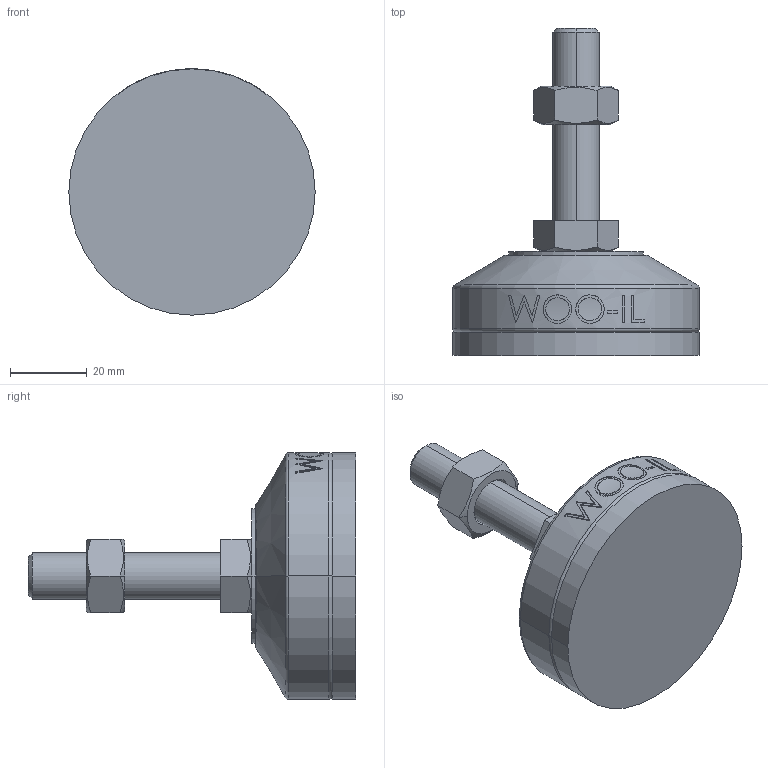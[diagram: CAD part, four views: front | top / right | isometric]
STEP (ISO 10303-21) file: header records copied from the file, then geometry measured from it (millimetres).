
FILE_DESCRIPTION (( 'STEP AP214' ), '1' );
FILE_NAME ('MFZR64-M12-50.step', '2021-03-29T06:55:29', ( '' ), ( '' ), 'SwSTEP 2.0', 'SolidWorks 2019', '' );
FILE_SCHEMA (( 'AUTOMOTIVE_DESIGN' ));
Length unit declared in the file: millimetre
Products named in the file (2): MFZR64-M12-50
Bounding box: 64 x 85 x 64 mm (x, y, z)
Volume: 85268.5 mm3; surface area: 21206.8 mm2
Topology: 4 solids, 4 shells, 103 faces, 235 edges, 150 vertices
Faces by surface type: plane 49, cylinder 18, bspline 16, cone 14, torus 6
Entity records: 4435 total; most frequent: CARTESIAN_POINT 2162, ORIENTED_EDGE 470, DIRECTION 417, EDGE_CURVE 235, AXIS2_PLACEMENT_3D 159, VERTEX_POINT 150, EDGE_LOOP 115, ADVANCED_FACE 103
